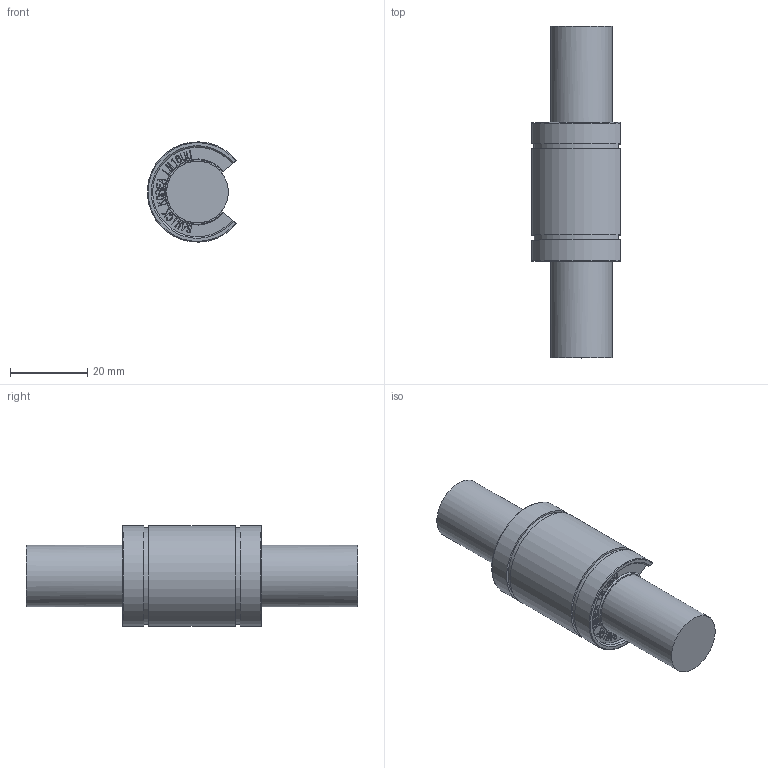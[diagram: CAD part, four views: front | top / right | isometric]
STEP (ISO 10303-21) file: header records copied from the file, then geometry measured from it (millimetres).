
FILE_DESCRIPTION(/* description */ (''),/* implementation_level */ '2;1');
FILE_NAME(/* name */ 'W:\(01) 2024년 홈페이지 CAD파일 최신화\LME_OP\IPT\LME16UUOP.stp',/* time_stamp */ '2025-01-25T10:18:49+09:00',/* author */ ('서우현'),/* organization */ (''),/* preprocessor_version */ 'ST-DEVELOPER v17.2',/* originating_system */ 'Autodesk Inventor 2019',/* authorisation */ '');
FILE_SCHEMA (('AUTOMOTIVE_DESIGN { 1 0 10303 214 3 1 1 }'));
Length unit declared in the file: millimetre
Products named in the file (1): LM5
Bounding box: 23.06 x 86 x 25.98 mm (x, y, z)
Volume: 26063 mm3; surface area: 6830.2 mm2
Topology: 1 solids, 1 shells, 828 faces, 2346 edges, 1564 vertices
Faces by surface type: bspline 588, plane 226, cylinder 8, cone 4, torus 2
Full cylindrical faces by diameter (mm): 16 x1
Entity records: 28318 total; most frequent: CARTESIAN_POINT 10031, ORIENTED_EDGE 4692, EDGE_CURVE 2346, DIRECTION 1684, VERTEX_POINT 1564, B_SPLINE_CURVE_WITH_KNOTS 1176, LINE 1138, VECTOR 1138
